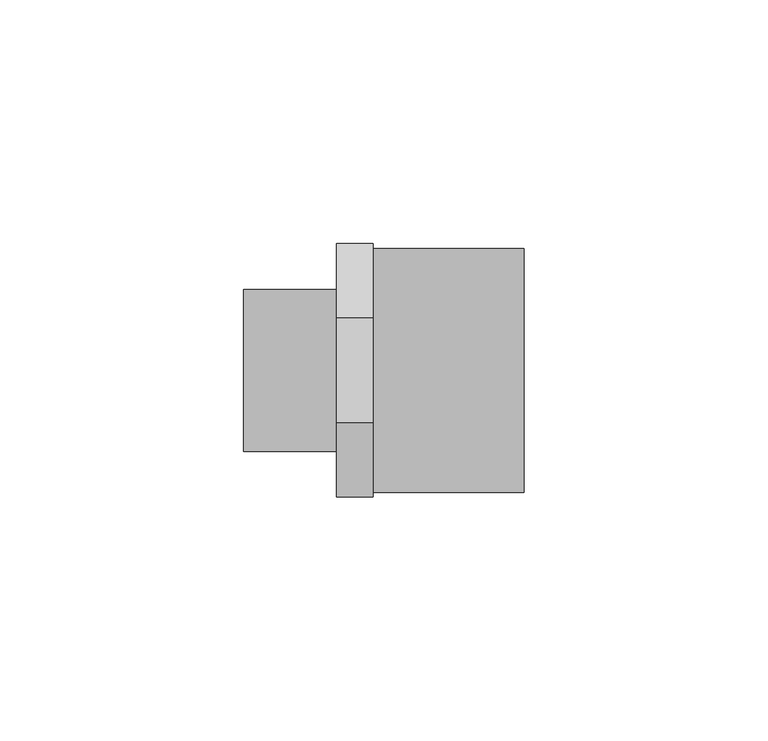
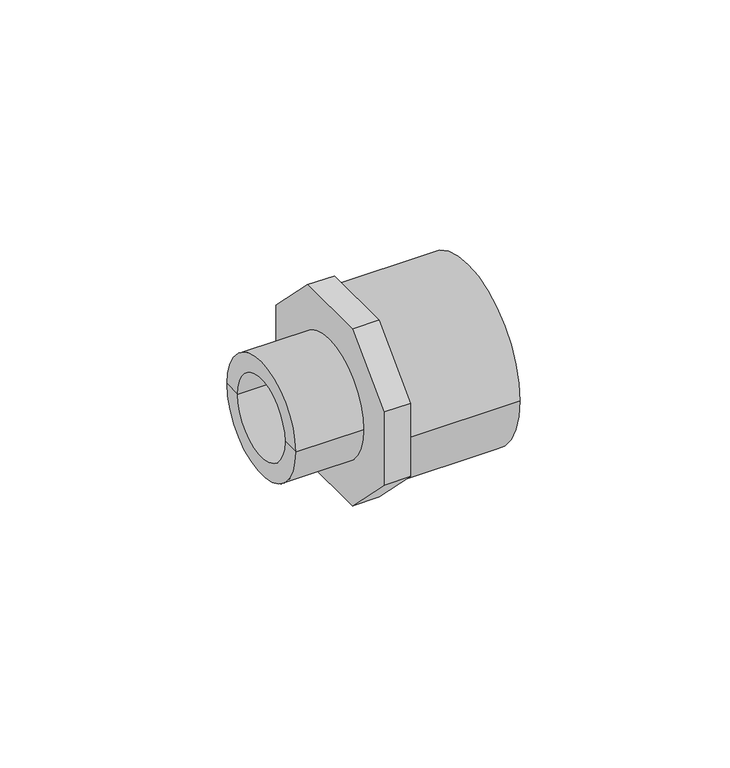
"""IFC4 building model written with IfcOpenShell, lengths in millimetres: pipe fitting geometry, Durapipe_PipeFitting_PVC_MaleThreadedAdaptors : 50 x 40 x G1."""

from ifc_helpers import new_model, si_unit, point, frame, origin, origin_2d, place, context, project, spatial, polyline, circle_curve, trimmed, segment, composite_curve, outline, extrude, source, transform, mapped, element, save
from ifc_brep_helpers import plane_surface, cylinder_surface, revolved_surface, advanced_brep


def pipe_fitting_00c68761(model_context):
    return source(origin(), model_context, "Body", "SolidModel", [
        extrude(outline(polyline([(26.0, 10.7695526), (26.0, -10.7695526), (10.7695526, -26.0), (-10.7695526, -26.0), (-26.0, -10.7695526), (-26.0, 10.7695526), (-10.7695526, 26.0), (10.7695526, 26.0), (26.0, 10.7695526)]), holes=[composite_curve([segment(trimmed(circle_curve(origin_2d(), 11.5), [point((11.5, 0.0))], [point((-11.5, 0.0))], True, "CARTESIAN"), True, "CONTINUOUS"), segment(trimmed(circle_curve(origin_2d(), 11.5), [point((-11.5, 0.0))], [point((11.5, 0.0))], True, "CARTESIAN"), True, "CONTINUOUS")], self_intersect=False)]), frame((-7.4, 0.0, 0.0), z_axis=(1.0, 0.0, 0.0), x_axis=(0.0, 1.0, 0.0)), (0.0, 0.0, 1.0), 7.4),
        advanced_brep(
        [(0.0, -25.0, 0.0), (0.0, 25.0, 0.0), (31.0, 25.0, 0.0), (31.0, -25.0, 0.0), (31.0, 20.0, 0.0), (31.0, -20.0, 0.0), (0.0, 0.0, 0.0), (5.0, 20.0, 0.0), (5.0, -20.0, 0.0), (5.0, 0.0, 0.0)],
        [
            (0, 1, circle_curve(frame((0.0, 0.0, 0.0), z_axis=(1.0, 0.0, 0.0), x_axis=(0.0, 1.0, 0.0)), 25.0)),
            (1, 2),
            (2, 3, circle_curve(frame((31.0, 0.0, 0.0), z_axis=(-1.0, 0.0, 0.0), x_axis=(0.0, 1.0, 0.0)), 25.0)),
            (3, 0),
            (1, 0, circle_curve(frame((0.0, 0.0, 0.0), z_axis=(1.0, 0.0, 0.0), x_axis=(0.0, 1.0, 0.0)), 25.0)),
            (3, 2, circle_curve(frame((31.0, 0.0, 0.0), z_axis=(-1.0, 0.0, 0.0), x_axis=(0.0, 1.0, 0.0)), 25.0)),
            (2, 4),
            (4, 5, circle_curve(frame((31.0, 0.0, 0.0), z_axis=(-1.0, 0.0, 0.0), x_axis=(0.0, 1.0, 0.0)), 20.0)),
            (5, 3),
            (5, 4, circle_curve(frame((31.0, 0.0, 0.0), z_axis=(-1.0, 0.0, 0.0), x_axis=(0.0, 1.0, 0.0)), 20.0)),
            (0, 6),
            (6, 1),
            (7, 8, circle_curve(frame((5.0, 0.0, 0.0), z_axis=(-1.0, 0.0, 0.0), x_axis=(0.0, 1.0, 0.0)), 20.0)),
            (8, 5),
            (4, 7),
            (8, 7, circle_curve(frame((5.0, 0.0, 0.0), z_axis=(-1.0, 0.0, 0.0), x_axis=(0.0, 1.0, 0.0)), 20.0)),
            (7, 9),
            (9, 8),
        ],
        [
            cylinder_surface(frame((432.4572068, 0.0, 0.0), z_axis=(-1.0, 0.0, 0.0), x_axis=(0.0, 1.0, 0.0)), 25.0),
            plane_surface(frame((31.0, 0.0, 0.0), z_axis=(1.0, 0.0, 0.0), x_axis=(0.0, 1.0, 0.0))),
            plane_surface(frame((0.0, 0.0, 0.0), z_axis=(-1.0, 0.0, 0.0), x_axis=(0.0, 1.0, 0.0))),
            revolved_surface(polyline([(5.0, 20.0, 0.0), (31.0, 20.0, 0.0)]), (44.5575137, 0.0, 0.0), (-1.0, 0.0, 0.0)),
            plane_surface(frame((5.0, 0.0, 0.0), z_axis=(1.0, 0.0, 0.0), x_axis=(0.0, 1.0, 0.0))),
        ],
        [
            (0, [[1, 2, 3, 4]]),
            (0, [[-2, 5, -4, 6]]),
            (1, [[-3, 7, 8, 9]]),
            (1, [[-6, -9, 10, -7]]),
            (2, [[-1, 11, 12]]),
            (2, [[-5, -12, -11]]),
            (3, [[13, 14, -8, 15]]),
            (3, [[16, -15, -10, -14]]),
            (4, [[-13, 17, 18]]),
            (4, [[-16, -18, -17]]),
        ],
    ),
        advanced_brep(
        [(-7.4, -11.5, 0.0), (-7.4, 11.5, 0.0), (-26.5, 11.5, 0.0), (-26.5, -11.5, 0.0), (-7.4, -16.6, 0.0), (-7.4, 16.6, 0.0), (-26.5, -16.6, 0.0), (-26.5, 16.6, 0.0)],
        [
            (0, 1, circle_curve(frame((-7.4, 0.0, 0.0), z_axis=(1.0, 0.0, 0.0), x_axis=(0.0, 1.0, 0.0)), 11.5)),
            (1, 2),
            (2, 3, circle_curve(frame((-26.5, 0.0, 0.0), z_axis=(-1.0, 0.0, 0.0), x_axis=(0.0, 1.0, 0.0)), 11.5)),
            (3, 0),
            (1, 0, circle_curve(frame((-7.4, 0.0, 0.0), z_axis=(1.0, 0.0, 0.0), x_axis=(0.0, 1.0, 0.0)), 11.5)),
            (3, 2, circle_curve(frame((-26.5, 0.0, 0.0), z_axis=(-1.0, 0.0, 0.0), x_axis=(0.0, 1.0, 0.0)), 11.5)),
            (4, 5, circle_curve(frame((-7.4, 0.0, 0.0), z_axis=(1.0, 0.0, 0.0), x_axis=(0.0, 1.0, 0.0)), 16.6)),
            (5, 1),
            (0, 4),
            (5, 4, circle_curve(frame((-7.4, 0.0, 0.0), z_axis=(1.0, 0.0, 0.0), x_axis=(0.0, 1.0, 0.0)), 16.6)),
            (6, 7, circle_curve(frame((-26.5, 0.0, 0.0), z_axis=(1.0, 0.0, 0.0), x_axis=(0.0, 1.0, 0.0)), 16.6)),
            (7, 5),
            (4, 6),
            (7, 6, circle_curve(frame((-26.5, 0.0, 0.0), z_axis=(1.0, 0.0, 0.0), x_axis=(0.0, 1.0, 0.0)), 16.6)),
            (2, 7),
            (6, 3),
        ],
        [
            revolved_surface(polyline([(-26.5, 11.5, 0.0), (-7.399999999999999, 11.5, 0.0)]), (-41.5, 0.0, 0.0), (-1.0, 0.0, 0.0)),
            plane_surface(frame((-7.4, 0.0, 0.0), z_axis=(1.0, 0.0, 0.0), x_axis=(0.0, 1.0, 0.0))),
            cylinder_surface(frame((-41.5, 0.0, 0.0), z_axis=(-1.0, 0.0, 0.0), x_axis=(0.0, 1.0, 0.0)), 16.6),
            plane_surface(frame((-26.5, 0.0, 0.0), z_axis=(-1.0, 0.0, 0.0), x_axis=(0.0, 1.0, 0.0))),
        ],
        [
            (0, [[1, 2, 3, 4]]),
            (0, [[5, -4, 6, -2]]),
            (1, [[7, 8, -1, 9]]),
            (1, [[10, -9, -5, -8]]),
            (2, [[11, 12, -7, 13]]),
            (2, [[14, -13, -10, -12]]),
            (3, [[-3, 15, -11, 16]]),
            (3, [[-6, -16, -14, -15]]),
        ],
    ),
    ])


if __name__ == "__main__":
    model = new_model("IFC4")
    model_context = context("Model", 3, world=origin())
    ifc_project = project(units=[si_unit("LENGTHUNIT", "METRE", prefix="MILLI")], contexts=[model_context])
    site = spatial("IfcSite", under=ifc_project)
    building = spatial("IfcBuilding", under=site)
    placement = place(None, origin())
    pipe_fitting_shape = pipe_fitting_00c68761(model_context)
    element("IfcPipeFitting", 1, ObjectType="Durapipe_PipeFitting_PVC_MaleThreadedAdaptors : 50 x 40 x G1", at=placement, inside=building, context=model_context, shape_type="MappedRepresentation", body=[
        mapped(pipe_fitting_shape, transform((0.0, 0.0, 0.0), x_axis=(1.0, 0.0, 0.0), y_axis=(0.0, 1.0, 0.0), z_axis=(0.0, 0.0, 1.0))),
    ])
    save(model, "model.ifc")
